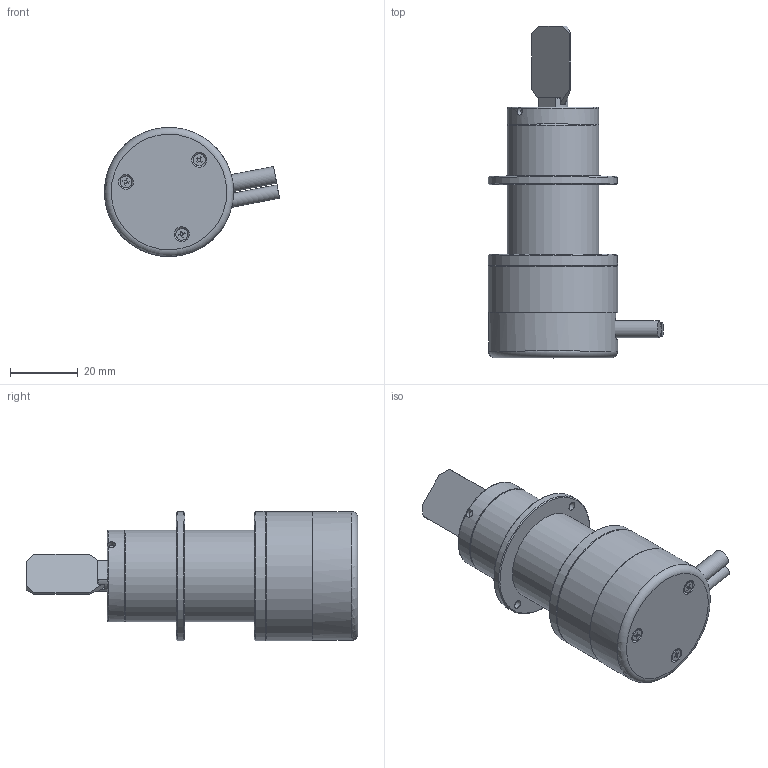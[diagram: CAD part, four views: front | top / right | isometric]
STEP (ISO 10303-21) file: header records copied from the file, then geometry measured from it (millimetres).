
FILE_DESCRIPTION (( 'STEP AP203' ), '1' );
FILE_NAME ('OD15_10mmY.STEP', '2025-03-19T08:20:10', ( 'zouluheng@hotmail.com' ), ( '' ), 'SwSTEP 2.0', 'SolidWorks 2023', '' );
FILE_SCHEMA (( 'CONFIG_CONTROL_DESIGN' ));
Length unit declared in the file: millimetre
Products named in the file (1): OD15_10mmY
Bounding box: 51.52 x 97.65 x 37.99 mm (x, y, z)
Surface area: 15778.2 mm2 (no closed solid volume)
Topology: 0 solids, 21 shells, 173 faces, 541 edges, 383 vertices
Faces by surface type: plane 106, cylinder 48, cone 14, torus 3, sphere 2
Full cylindrical faces by diameter (mm): 1 x2, 2.3 x2, 2.5 x2, 3.5 x3, 4 x1, 4.5 x2, 5 x1, 12 x2, 27 x3, 35.4 x1, 37 x1, 38 x4
Entity records: 6124 total; most frequent: CARTESIAN_POINT 1327, DIRECTION 994, ORIENTED_EDGE 837, EDGE_CURVE 496, VERTEX_POINT 375, AXIS2_PLACEMENT_3D 370, EDGE_LOOP 272, VECTOR 254
